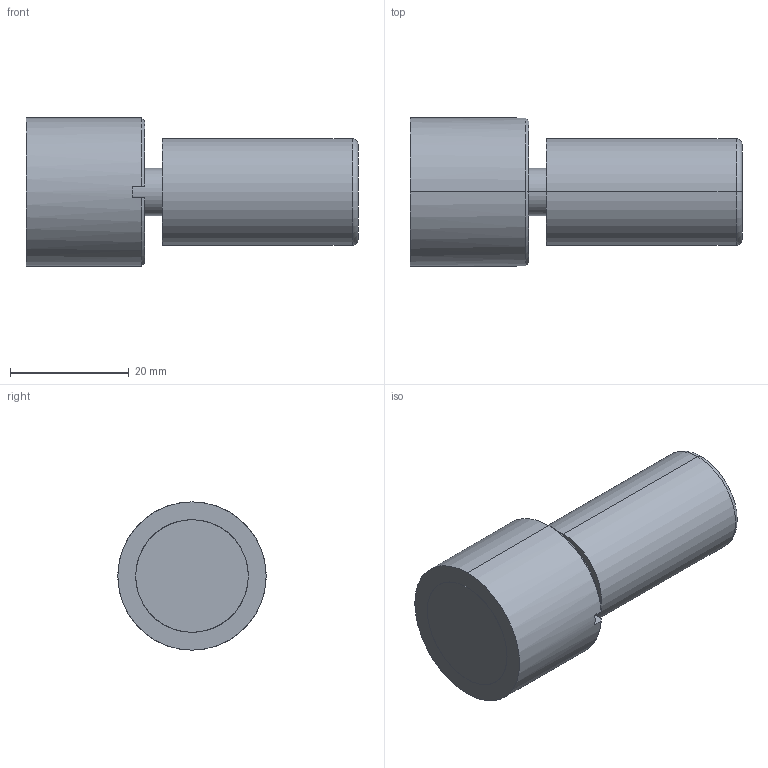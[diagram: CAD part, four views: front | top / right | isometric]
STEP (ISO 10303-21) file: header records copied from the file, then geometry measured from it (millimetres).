
FILE_DESCRIPTION(('CATIA V5 STEP Exchange'),'2;1');
FILE_NAME('C:\Users\Utente\Desktop\IO LAVORO\3D X SITO CF\X SITO\PLASTICA\CF-VPA\CF-VPA25.stp','2021-03-20T16:37:21+00:00',('none'),('none'),'CATIA Version 5 Release 20 GA (IN-10)','CATIA V5 STEP AP203','none');
FILE_SCHEMA(('CONFIG_CONTROL_DESIGN'));
Length unit declared in the file: millimetre
Products named in the file (1): CF-VPA25
Assembly tree (2 placements, depth 2):
  CF-VPA25
    #58
    #769
Bounding box: 56 x 25 x 25 mm (x, y, z)
Volume: 18134.8 mm3; surface area: 6380.4 mm2
Topology: 2 solids, 2 shells, 30 faces, 88 edges, 62 vertices
Faces by surface type: plane 12, cone 8, cylinder 8, torus 2
Entity records: 1149 total; most frequent: CARTESIAN_POINT 276, ORIENTED_EDGE 176, DIRECTION 144, EDGE_CURVE 88, AXIS2_PLACEMENT_3D 80, VERTEX_POINT 62, CIRCLE 46, EDGE_LOOP 32
